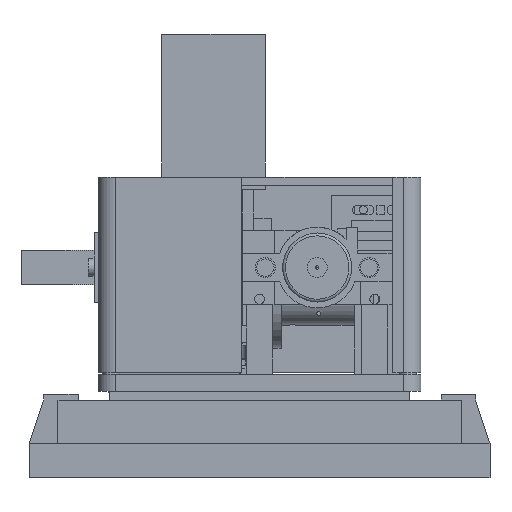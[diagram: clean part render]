
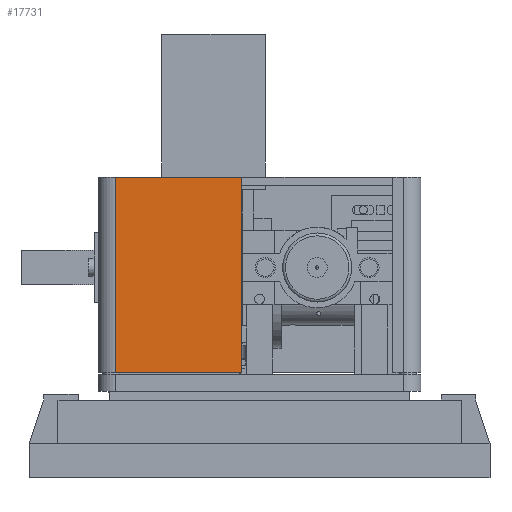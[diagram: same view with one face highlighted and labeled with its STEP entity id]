
A CAD part, front view. The second image highlights one B-rep face of the part: STEP entity #17731.
In plain terms, the highlighted planar face has unit normal (0, -1, 0).
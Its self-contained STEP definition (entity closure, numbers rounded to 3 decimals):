
#15495 = PLANE('',#15496);
#15496 = AXIS2_PLACEMENT_3D('',#15497,#15498,#15499);
#15497 = CARTESIAN_POINT('',(-56.,-75.,74.4));
#15498 = DIRECTION('',(0.,0.,1.));
#15499 = DIRECTION('',(1.,0.,0.));
#15523 = CYLINDRICAL_SURFACE('',#15524,6.);
#15524 = AXIS2_PLACEMENT_3D('',#15525,#15526,#15527);
#15525 = CARTESIAN_POINT('',(-50.,-69.,6.4));
#15526 = DIRECTION('',(0.,0.,1.));
#15527 = DIRECTION('',(-1.,-0.,0.));
#15551 = PLANE('',#15552);
#15552 = AXIS2_PLACEMENT_3D('',#15553,#15554,#15555);
#15553 = CARTESIAN_POINT('',(-56.,-75.,6.4));
#15554 = DIRECTION('',(0.,0.,1.));
#15555 = DIRECTION('',(1.,0.,0.));
#15876 = VERTEX_POINT('',#15877);
#15877 = CARTESIAN_POINT('',(-50.,-75.,74.4));
#15899 = EDGE_CURVE('',#15876,#15900,#15902,.T.);
#15900 = VERTEX_POINT('',#15901);
#15901 = CARTESIAN_POINT('',(-6.2,-75.,74.4));
#15902 = SURFACE_CURVE('',#15903,(#15907,#15914),.PCURVE_S1.);
#15903 = LINE('',#15904,#15905);
#15904 = CARTESIAN_POINT('',(-56.,-75.,74.4));
#15905 = VECTOR('',#15906,1.);
#15906 = DIRECTION('',(1.,0.,0.));
#15907 = PCURVE('',#15495,#15908);
#15908 = DEFINITIONAL_REPRESENTATION('',(#15909),#15913);
#15909 = LINE('',#15910,#15911);
#15910 = CARTESIAN_POINT('',(0.,0.));
#15911 = VECTOR('',#15912,1.);
#15912 = DIRECTION('',(1.,0.));
#15913 = ( GEOMETRIC_REPRESENTATION_CONTEXT(2) 
PARAMETRIC_REPRESENTATION_CONTEXT() REPRESENTATION_CONTEXT('2D SPACE',''
  ) );
#15914 = PCURVE('',#15915,#15920);
#15915 = PLANE('',#15916);
#15916 = AXIS2_PLACEMENT_3D('',#15917,#15918,#15919);
#15917 = CARTESIAN_POINT('',(-56.,-75.,6.4));
#15918 = DIRECTION('',(0.,1.,0.));
#15919 = DIRECTION('',(0.,0.,1.));
#15920 = DEFINITIONAL_REPRESENTATION('',(#15921),#15925);
#15921 = LINE('',#15922,#15923);
#15922 = CARTESIAN_POINT('',(68.,0.));
#15923 = VECTOR('',#15924,1.);
#15924 = DIRECTION('',(0.,1.));
#15925 = ( GEOMETRIC_REPRESENTATION_CONTEXT(2) 
PARAMETRIC_REPRESENTATION_CONTEXT() REPRESENTATION_CONTEXT('2D SPACE',''
  ) );
#15942 = PLANE('',#15943);
#15943 = AXIS2_PLACEMENT_3D('',#15944,#15945,#15946);
#15944 = CARTESIAN_POINT('',(-6.2,-80.5,6.));
#15945 = DIRECTION('',(1.,0.,0.));
#15946 = DIRECTION('',(0.,0.,1.));
#16745 = VERTEX_POINT('',#16746);
#16746 = CARTESIAN_POINT('',(-50.,-75.,6.4));
#16768 = EDGE_CURVE('',#16745,#15876,#16769,.T.);
#16769 = SURFACE_CURVE('',#16770,(#16774,#16781),.PCURVE_S1.);
#16770 = LINE('',#16771,#16772);
#16771 = CARTESIAN_POINT('',(-50.,-75.,6.4));
#16772 = VECTOR('',#16773,1.);
#16773 = DIRECTION('',(0.,0.,1.));
#16774 = PCURVE('',#15523,#16775);
#16775 = DEFINITIONAL_REPRESENTATION('',(#16776),#16780);
#16776 = LINE('',#16777,#16778);
#16777 = CARTESIAN_POINT('',(1.571,0.));
#16778 = VECTOR('',#16779,1.);
#16779 = DIRECTION('',(0.,1.));
#16780 = ( GEOMETRIC_REPRESENTATION_CONTEXT(2) 
PARAMETRIC_REPRESENTATION_CONTEXT() REPRESENTATION_CONTEXT('2D SPACE',''
  ) );
#16781 = PCURVE('',#15915,#16782);
#16782 = DEFINITIONAL_REPRESENTATION('',(#16783),#16787);
#16783 = LINE('',#16784,#16785);
#16784 = CARTESIAN_POINT('',(0.,6.));
#16785 = VECTOR('',#16786,1.);
#16786 = DIRECTION('',(1.,0.));
#16787 = ( GEOMETRIC_REPRESENTATION_CONTEXT(2) 
PARAMETRIC_REPRESENTATION_CONTEXT() REPRESENTATION_CONTEXT('2D SPACE',''
  ) );
#16850 = EDGE_CURVE('',#16745,#16851,#16853,.T.);
#16851 = VERTEX_POINT('',#16852);
#16852 = CARTESIAN_POINT('',(-6.2,-75.,6.4));
#16853 = SURFACE_CURVE('',#16854,(#16858,#16865),.PCURVE_S1.);
#16854 = LINE('',#16855,#16856);
#16855 = CARTESIAN_POINT('',(-56.,-75.,6.4));
#16856 = VECTOR('',#16857,1.);
#16857 = DIRECTION('',(1.,0.,0.));
#16858 = PCURVE('',#15551,#16859);
#16859 = DEFINITIONAL_REPRESENTATION('',(#16860),#16864);
#16860 = LINE('',#16861,#16862);
#16861 = CARTESIAN_POINT('',(0.,0.));
#16862 = VECTOR('',#16863,1.);
#16863 = DIRECTION('',(1.,0.));
#16864 = ( GEOMETRIC_REPRESENTATION_CONTEXT(2) 
PARAMETRIC_REPRESENTATION_CONTEXT() REPRESENTATION_CONTEXT('2D SPACE',''
  ) );
#16865 = PCURVE('',#15915,#16866);
#16866 = DEFINITIONAL_REPRESENTATION('',(#16867),#16871);
#16867 = LINE('',#16868,#16869);
#16868 = CARTESIAN_POINT('',(0.,0.));
#16869 = VECTOR('',#16870,1.);
#16870 = DIRECTION('',(0.,1.));
#16871 = ( GEOMETRIC_REPRESENTATION_CONTEXT(2) 
PARAMETRIC_REPRESENTATION_CONTEXT() REPRESENTATION_CONTEXT('2D SPACE',''
  ) );
#17731 = ADVANCED_FACE('',(#17732),#15915,.F.);
#17732 = FACE_BOUND('',#17733,.F.);
#17733 = EDGE_LOOP('',(#17734,#17735,#17736,#17737));
#17734 = ORIENTED_EDGE('',*,*,#16850,.F.);
#17735 = ORIENTED_EDGE('',*,*,#16768,.T.);
#17736 = ORIENTED_EDGE('',*,*,#15899,.T.);
#17737 = ORIENTED_EDGE('',*,*,#17738,.T.);
#17738 = EDGE_CURVE('',#15900,#16851,#17739,.T.);
#17739 = SURFACE_CURVE('',#17740,(#17744,#17750),.PCURVE_S1.);
#17740 = LINE('',#17741,#17742);
#17741 = CARTESIAN_POINT('',(-6.2,-75.,6.2));
#17742 = VECTOR('',#17743,1.);
#17743 = DIRECTION('',(0.,0.,-1.));
#17744 = PCURVE('',#15915,#17745);
#17745 = DEFINITIONAL_REPRESENTATION('',(#17746),#17749);
#17746 = B_SPLINE_CURVE_WITH_KNOTS('',1,(#17747,#17748),.UNSPECIFIED.,
  .F.,.F.,(2,2),(-68.2,-0.2),.PIECEWISE_BEZIER_KNOTS.);
#17747 = CARTESIAN_POINT('',(68.,49.8));
#17748 = CARTESIAN_POINT('',(0.,49.8));
#17749 = ( GEOMETRIC_REPRESENTATION_CONTEXT(2) 
PARAMETRIC_REPRESENTATION_CONTEXT() REPRESENTATION_CONTEXT('2D SPACE',''
  ) );
#17750 = PCURVE('',#15942,#17751);
#17751 = DEFINITIONAL_REPRESENTATION('',(#17752),#17755);
#17752 = B_SPLINE_CURVE_WITH_KNOTS('',1,(#17753,#17754),.UNSPECIFIED.,
  .F.,.F.,(2,2),(-68.2,-0.2),.PIECEWISE_BEZIER_KNOTS.);
#17753 = CARTESIAN_POINT('',(68.4,-5.5));
#17754 = CARTESIAN_POINT('',(0.4,-5.5));
#17755 = ( GEOMETRIC_REPRESENTATION_CONTEXT(2) 
PARAMETRIC_REPRESENTATION_CONTEXT() REPRESENTATION_CONTEXT('2D SPACE',''
  ) );
